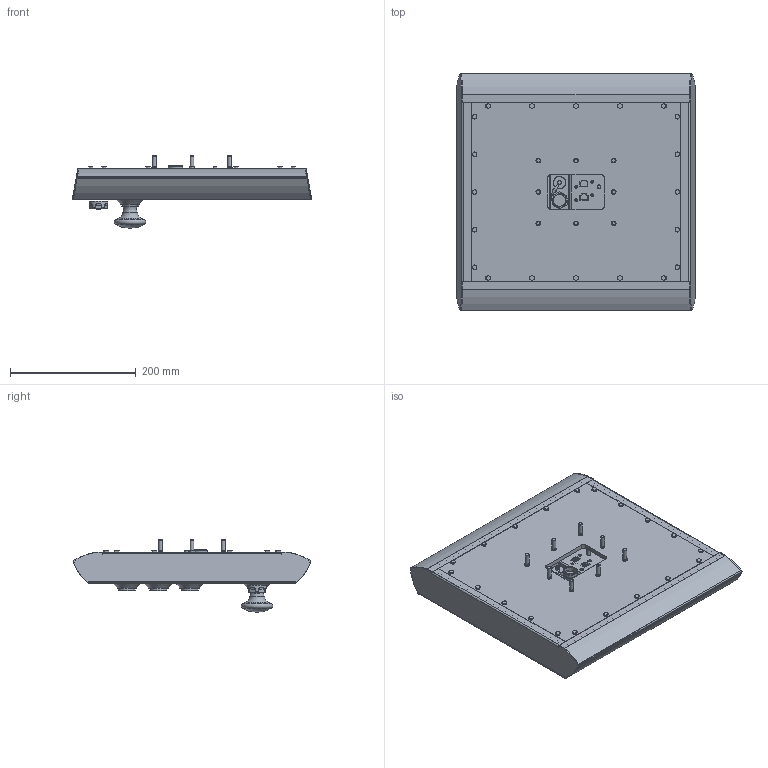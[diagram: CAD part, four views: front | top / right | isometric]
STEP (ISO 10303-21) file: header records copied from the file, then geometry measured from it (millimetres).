
FILE_DESCRIPTION((''),'2;1');
FILE_NAME('X:\0-inventor\0-3d-Teile\PC-Compo\solids\CP77 ES\0-Ausgabe\CP7701-1401-M180.stp','2010-11-15T11:40:23',('ChristianKreuzer'),(''),'Autodesk Inventor 2011','Autodesk Inventor 2011','');
FILE_SCHEMA(('AUTOMOTIVE_DESIGN { 1 0 10303 214 1 1 1 1 }'));
Length unit declared in the file: millimetre
Products named in the file (1): Bauteil204
Bounding box: 380.79 x 379.05 x 114.96 mm (x, y, z)
Volume: 703643.3 mm3; surface area: 761259.2 mm2
Topology: 4 solids, 14 shells, 1044 faces, 2390 edges, 1487 vertices
Faces by surface type: plane 564, cylinder 237, cone 186, bspline 31, torus 24, sphere 2
Full cylindrical faces by diameter (mm): 0.75 x8, 0.8 x8, 2.459 x5, 3 x1, 3.84 x4, 3.944 x4, 4.22 x4, 4.25 x4, 4.5 x20, 5 x8, 5.9 x20, 6 x11, 6.1 x1, 6.35 x4, 7.5 x8, 15.6 x1, 15.7 x1, 17 x1, 19 x1, 20 x5, 21.4 x2, 22.8 x1, 22.9 x1, 25 x1, 27 x3, 29.7 x1
Entity records: 28824 total; most frequent: CARTESIAN_POINT 6002, DIRECTION 4529, ORIENTED_EDGE 4236, EDGE_CURVE 2118, AXIS2_PLACEMENT_3D 1711, VERTEX_POINT 1423, EDGE_LOOP 1385, VECTOR 1107
